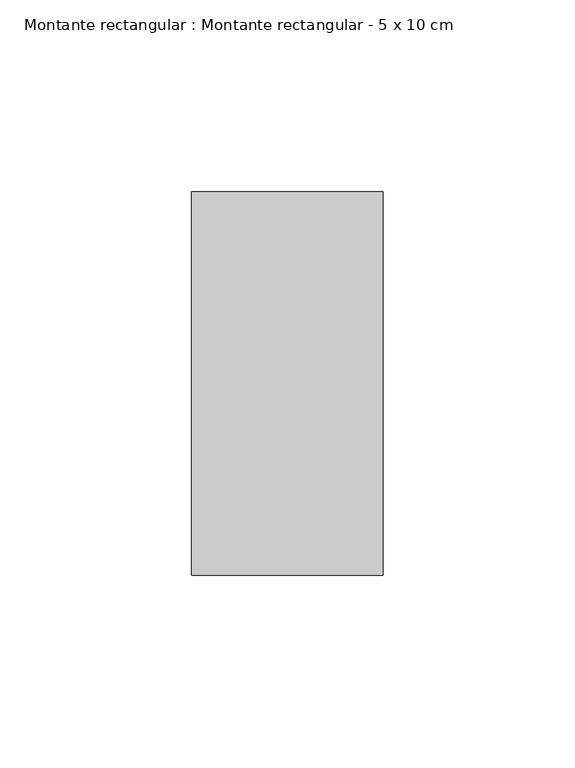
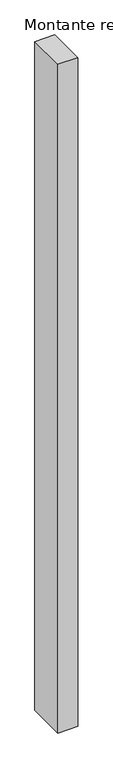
"""IFC4 building model written with IfcOpenShell, lengths in millimetres: member geometry, Montante rectangular : Montante rectangular - 5 x 10 cm."""

from ifc_helpers import new_model, si_unit, frame, origin, place, context, project, spatial, polyline, outline, extrude, source, transform, mapped, element, save


def montante_rectangular_montante_rectangular_5_x_10_cm_f0c08bc0(model_context):
    return source(origin(), model_context, "Body", "SweptSolid", [
        extrude(outline(polyline([(25.0, -50.0), (-25.0, -50.0), (-25.0, 50.0), (25.0, 50.0), (25.0, -50.0)])), frame((0.0, 0.0, -1768.7191254), z_axis=(0.0, 0.0, 1.0), x_axis=(1.0, 0.0, 0.0)), (0.0, 0.0, 1.0), 1768.7191254),
    ])


if __name__ == "__main__":
    model = new_model("IFC4")
    model_context = context("Model", 3, world=origin())
    ifc_project = project(units=[si_unit("LENGTHUNIT", "METRE", prefix="MILLI")], contexts=[model_context])
    site = spatial("IfcSite", under=ifc_project)
    building = spatial("IfcBuilding", under=site)
    placement = place(None, origin())
    montante_rectangular_montante_rectangular_5_x_10_cm_shape = montante_rectangular_montante_rectangular_5_x_10_cm_f0c08bc0(model_context)
    element("IfcMember", 1, ObjectType="Montante rectangular : Montante rectangular - 5 x 10 cm", at=placement, inside=building, context=model_context, shape_type="MappedRepresentation", body=[
        mapped(montante_rectangular_montante_rectangular_5_x_10_cm_shape, transform((0.0, 0.0, 0.0), x_axis=(1.0, 0.0, 0.0), y_axis=(0.0, 1.0, 0.0), z_axis=(0.0, 0.0, 1.0))),
    ])
    save(model, "model.ifc")
